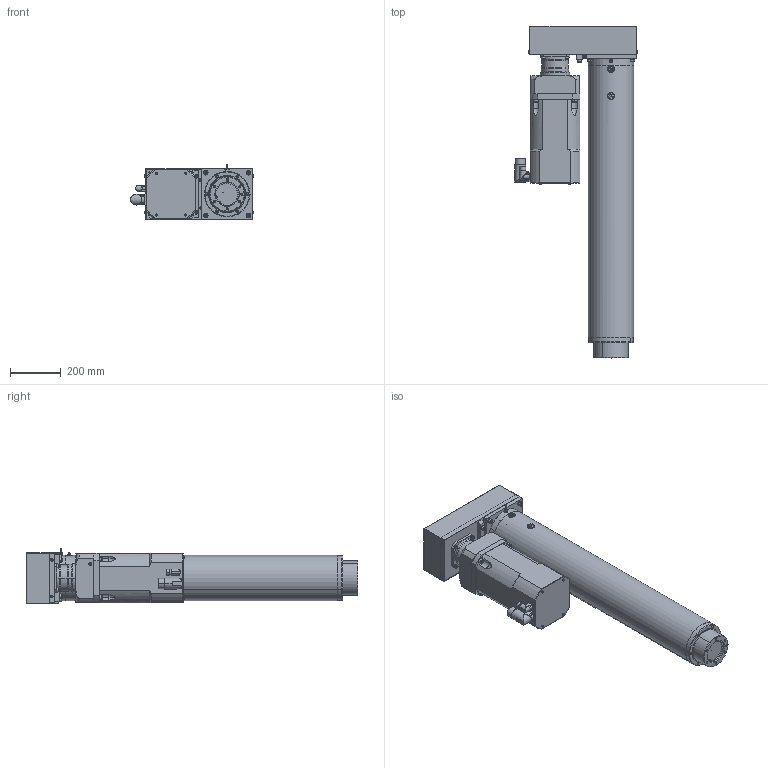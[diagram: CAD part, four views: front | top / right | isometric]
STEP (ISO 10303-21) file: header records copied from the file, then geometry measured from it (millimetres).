
FILE_DESCRIPTION (( 'STEP AP203' ), '1' );
FILE_NAME ('LN5P0600-075-025HG.STEP', '2018-01-30T12:04:43', ( '' ), ( '' ), 'SwSTEP 2.0', 'SolidWorks 2016', '' );
FILE_SCHEMA (( 'CONFIG_CONTROL_DESIGN' ));
Products named in the file (1): LN5P0600-075-025HG
Bounding box: 483.25 x 1303.5 x 216.14 mm (x, y, z)
Volume: 36722371.4 mm3; surface area: 3332767.6 mm2
Topology: 45 solids, 45 shells, 1462 faces, 3391 edges, 2023 vertices
Faces by surface type: plane 563, cylinder 522, cone 267, torus 78, bspline 30, sphere 2
Entity records: 42685 total; most frequent: CARTESIAN_POINT 9230, DIRECTION 7403, ORIENTED_EDGE 6498, EDGE_CURVE 3249, AXIS2_PLACEMENT_3D 2893, VERTEX_POINT 2023, EDGE_LOOP 1736, VECTOR 1617
